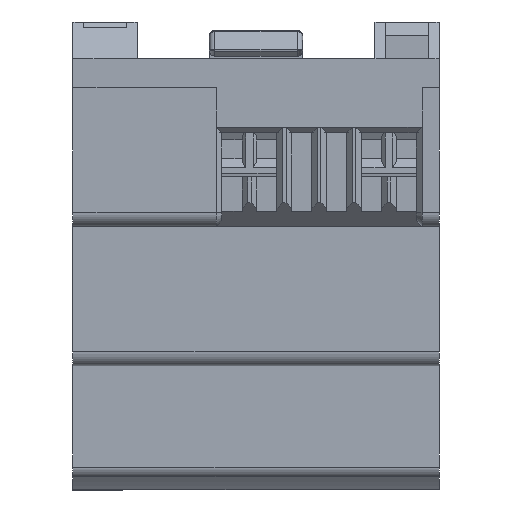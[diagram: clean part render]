
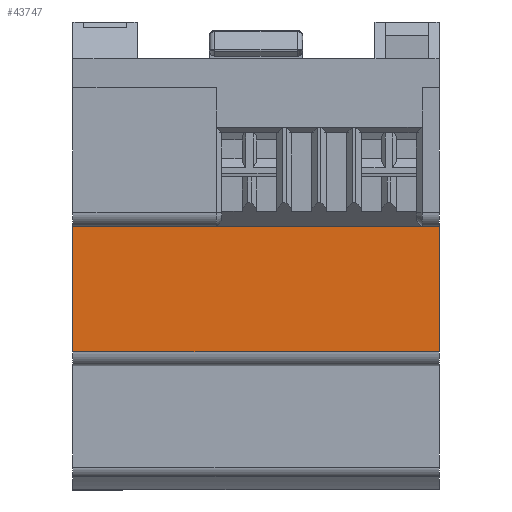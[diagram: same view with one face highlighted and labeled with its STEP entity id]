
A CAD part, left-side view. The second image highlights one B-rep face of the part: STEP entity #43747.
In plain terms, the highlighted planar face has unit normal (-1, 0, 0).
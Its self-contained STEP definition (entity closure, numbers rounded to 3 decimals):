
#42664 = VERTEX_POINT ( 'NONE', #44571 ) ;
#42668 = EDGE_CURVE ( 'NONE', #42664, #42670, #44562, .T. ) ;
#42670 = VERTEX_POINT ( 'NONE', #44551 ) ;
#42681 = VERTEX_POINT ( 'NONE', #44736 ) ;
#42685 = EDGE_CURVE ( 'NONE', #42681, #42716, #44667, .T. ) ;
#42716 = VERTEX_POINT ( 'NONE', #44398 ) ;
#42750 = ORIENTED_EDGE ( 'NONE', *, *, #42668, .F. ) ;
#42751 = ORIENTED_EDGE ( 'NONE', *, *, #42790, .T. ) ;
#42790 = EDGE_CURVE ( 'NONE', #42664, #42681, #45029, .T. ) ;
#43424 = EDGE_LOOP ( 'NONE', ( #43881, #43876, #42750, #42751 ) ) ;
#43456 = EDGE_CURVE ( 'NONE', #42716, #42670, #46496, .T. ) ;
#43747 = ADVANCED_FACE ( 'NONE', ( #47166 ), #47135, .F. ) ;
#43876 = ORIENTED_EDGE ( 'NONE', *, *, #43456, .T. ) ;
#43881 = ORIENTED_EDGE ( 'NONE', *, *, #42685, .T. ) ;
#44398 = CARTESIAN_POINT ( 'NONE',  ( 15.677, 93.761, 76.86 ) ) ;
#44551 = CARTESIAN_POINT ( 'NONE',  ( 15.684, 41.261, 76.86 ) ) ;
#44556 = DIRECTION ( 'NONE',  ( 0., 0., -1. ) ) ;
#44558 = VECTOR ( 'NONE', #44556, 1000. ) ;
#44561 = CARTESIAN_POINT ( 'NONE',  ( 15.684, 41.261, 74.86 ) ) ;
#44562 = LINE ( 'NONE', #44561, #44558 ) ;
#44571 = CARTESIAN_POINT ( 'NONE',  ( 15.684, 41.261, 94.86 ) ) ;
#44659 = DIRECTION ( 'NONE',  ( 0., 0., -1. ) ) ;
#44662 = VECTOR ( 'NONE', #44659, 1000. ) ;
#44665 = CARTESIAN_POINT ( 'NONE',  ( 15.677, 93.761, 74.86 ) ) ;
#44667 = LINE ( 'NONE', #44665, #44662 ) ;
#44736 = CARTESIAN_POINT ( 'NONE',  ( 15.677, 93.761, 94.86 ) ) ;
#45021 = DIRECTION ( 'NONE',  ( 0., 1., 0. ) ) ;
#45022 = VECTOR ( 'NONE', #45021, 1000. ) ;
#45023 = CARTESIAN_POINT ( 'NONE',  ( 15.684, 41.261, 94.86 ) ) ;
#45029 = LINE ( 'NONE', #45023, #45022 ) ;
#46493 = DIRECTION ( 'NONE',  ( 0., -1., 0. ) ) ;
#46494 = VECTOR ( 'NONE', #46493, 1000. ) ;
#46495 = CARTESIAN_POINT ( 'NONE',  ( 15.684, 41.261, 76.86 ) ) ;
#46496 = LINE ( 'NONE', #46495, #46494 ) ;
#46954 = DIRECTION ( 'NONE',  ( 0., -1., 0. ) ) ;
#46955 = DIRECTION ( 'NONE',  ( 1., 0., 0. ) ) ;
#47133 = CARTESIAN_POINT ( 'NONE',  ( 15.684, 41.261, 74.86 ) ) ;
#47134 = AXIS2_PLACEMENT_3D ( 'NONE', #47133, #46955, #46954 ) ;
#47135 = PLANE ( 'NONE',  #47134 ) ;
#47166 = FACE_OUTER_BOUND ( 'NONE', #43424, .T. ) ;
